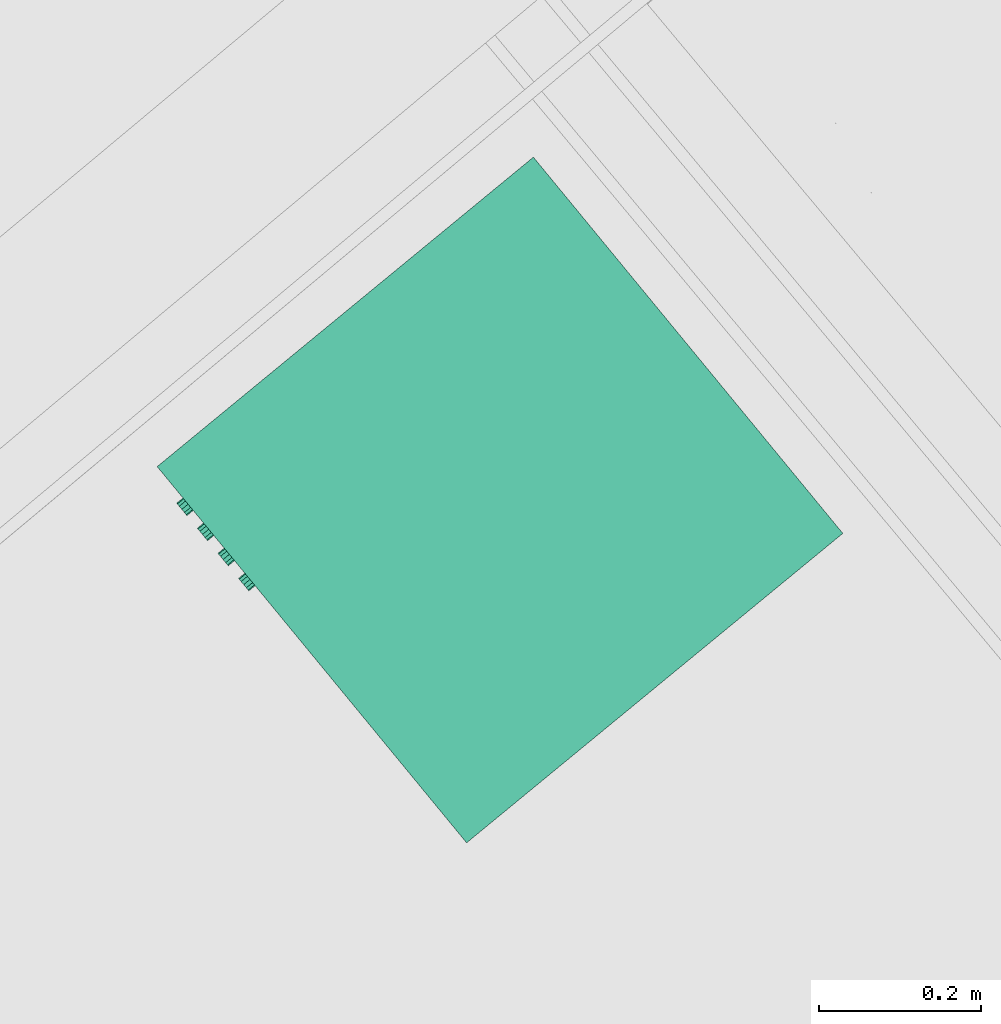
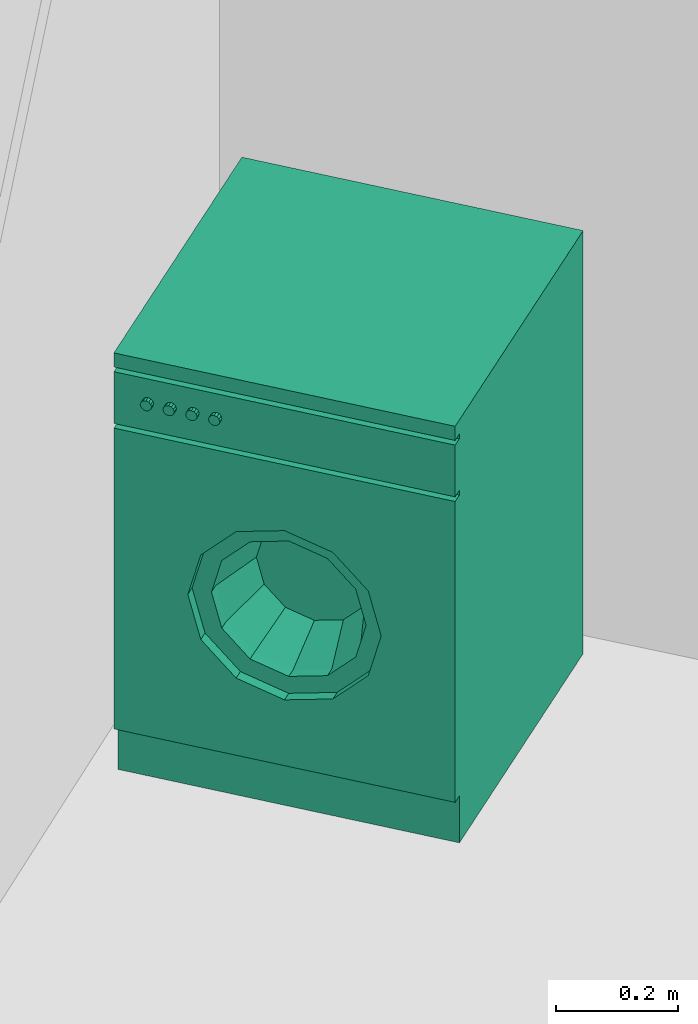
# One storey, part 50 of 58: 1 sanitary terminal.
"""IFC4 building model written with IfcOpenShell, lengths in metres."""

from ifc_helpers import new_model, entity, si_unit, converted_unit, derived_unit, direction, frame, origin_with_axes, place, context, subcontext, project, spatial, polygons, source, transform, mapped, type_object, element, save


model = new_model("IFC4")

# Units and contexts
model_context = context("Model", 3, precision=1e-05, world=origin_with_axes(), true_north=direction((0.0, 1.0)))
body_context = subcontext(model_context, "Body", "Model", "MODEL_VIEW")
ifc_project = project(units=[si_unit("LENGTHUNIT", "METRE"), si_unit("AREAUNIT", "SQUARE_METRE"), si_unit("VOLUMEUNIT", "CUBIC_METRE"), converted_unit("PLANEANGLEUNIT", "DEGREE", entity("IfcPlaneAngleMeasure", 0.0174532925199), si_unit("PLANEANGLEUNIT", "RADIAN"), dimensions=[0, 0, 0, 0, 0, 0, 0]), converted_unit("TIMEUNIT", "Year", entity("IfcTimeMeasure", 31556926.0), si_unit("TIMEUNIT", "SECOND"), dimensions=[0, 0, 1, 0, 0, 0, 0]), si_unit("MASSUNIT", "GRAM", prefix="KILO"), si_unit("THERMODYNAMICTEMPERATUREUNIT", "DEGREE_CELSIUS"), si_unit("LUMINOUSINTENSITYUNIT", "LUMEN"), si_unit("ENERGYUNIT", "JOULE", prefix="MEGA"), derived_unit("THERMALCONDUCTANCEUNIT", [(si_unit("POWERUNIT", "WATT"), 1), (si_unit("LENGTHUNIT", "METRE"), -1), (si_unit("THERMODYNAMICTEMPERATUREUNIT", "KELVIN"), -1)]), derived_unit("SPECIFICHEATCAPACITYUNIT", [(si_unit("ENERGYUNIT", "JOULE"), 1), (si_unit("MASSUNIT", "GRAM", prefix="KILO"), -1), (si_unit("THERMODYNAMICTEMPERATUREUNIT", "KELVIN"), -1)]), derived_unit("MASSDENSITYUNIT", [(si_unit("MASSUNIT", "GRAM", prefix="KILO"), 1), (si_unit("VOLUMEUNIT", "CUBIC_METRE"), -1)])], contexts=[model_context])

# Site, building, storey
site_placement = place(None, frame((-0.00153261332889, -0.00661245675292, 0.0), z_axis=(0.0, 0.0, 1.0), x_axis=(1.0, 0.0, 0.0)))
site = spatial("IfcSite", under=ifc_project, at=site_placement, Name="Site", CompositionType="ELEMENT")
building_placement = place(site_placement, origin_with_axes())
building = spatial("IfcBuilding", under=site, at=building_placement, Name="Building", CompositionType="ELEMENT")
storey_placement = place(building_placement, frame((0.0, 0.0, 5.7), z_axis=(0.0, 0.0, 1.0), x_axis=(1.0, 0.0, 0.0)))
storey = spatial("IfcBuildingStorey", under=building, at=storey_placement, Name="DG1", CompositionType="ELEMENT", Elevation=5.7)

# Sanitary terminal
sanitary_terminal_type = type_object("IfcSanitaryTerminalType", Name="Waschmaschine 01 26", PredefinedType="NOTDEFINED")
shared_shape = source(origin_with_axes(), body_context, "Body", "Tessellation", [
    polygons([(-0.3, -0.58, 0.0944444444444), (0.3, -0.58, 0.0944444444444), (0.3, -0.6, 0.0944444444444), (-0.3, -0.6, 0.0944444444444), (-0.3, -0.58, 0.698888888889), (0.3, -0.58, 0.698888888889), (0.17, -0.58, 0.396666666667), (0.147224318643, -0.58, 0.481666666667), (0.085, -0.58, 0.54389098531), (0.0, -0.58, 0.566666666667), (-0.085, -0.58, 0.54389098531), (-0.147224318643, -0.58, 0.481666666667), (-0.17, -0.58, 0.396666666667), (-0.147224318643, -0.58, 0.311666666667), (-0.085, -0.58, 0.249442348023), (0.0, -0.58, 0.226666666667), (0.085, -0.58, 0.249442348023), (0.147224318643, -0.58, 0.311666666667), (0.3, -0.6, 0.698888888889), (-0.3, -0.6, 0.698888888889), (0.17, -0.6, 0.396666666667), (0.147224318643, -0.6, 0.311666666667), (0.085, -0.6, 0.249442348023), (0.0, -0.6, 0.226666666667), (-0.085, -0.6, 0.249442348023), (-0.147224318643, -0.6, 0.311666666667), (-0.17, -0.6, 0.396666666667), (-0.147224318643, -0.6, 0.481666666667), (-0.085, -0.6, 0.54389098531), (0.0, -0.6, 0.566666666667), (0.085, -0.6, 0.54389098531), (0.147224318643, -0.6, 0.481666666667)], [[[1, 2, 3, 4]], [[1, 5, 6, 2], [7, 8, 9, 10, 11, 12, 13, 14, 15, 16, 17, 18]], [[2, 6, 19, 3]], [[4, 3, 19, 20], [21, 22, 23, 24, 25, 26, 27, 28, 29, 30, 31, 32]], [[5, 1, 4, 20]], [[6, 5, 20, 19]], [[8, 7, 21, 32]], [[9, 8, 32, 31]], [[10, 9, 31, 30]], [[11, 10, 30, 29]], [[12, 11, 29, 28]], [[13, 12, 28, 27]], [[14, 13, 27, 26]], [[15, 14, 26, 25]], [[16, 15, 25, 24]], [[17, 16, 24, 23]], [[18, 17, 23, 22]], [[7, 18, 22, 21]]], closed=True),
    polygons([(0.17, -0.56, 0.396666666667), (0.147224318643, -0.56, 0.481666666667), (0.147224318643, -0.58, 0.481666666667), (0.17, -0.58, 0.396666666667), (0.147224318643, -0.56, 0.311666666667), (0.085, -0.56, 0.249442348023), (0.0, -0.56, 0.226666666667), (-0.085, -0.56, 0.249442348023), (-0.147224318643, -0.56, 0.311666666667), (-0.17, -0.56, 0.396666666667), (-0.147224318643, -0.56, 0.481666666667), (-0.085, -0.56, 0.54389098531), (0.0, -0.56, 0.566666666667), (0.085, -0.56, 0.54389098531), (0.136, -0.56, 0.396666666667), (0.117779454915, -0.56, 0.464666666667), (0.068, -0.56, 0.514446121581), (0.0, -0.56, 0.532666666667), (-0.068, -0.56, 0.514446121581), (-0.117779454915, -0.56, 0.464666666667), (-0.136, -0.56, 0.396666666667), (-0.117779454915, -0.56, 0.328666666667), (-0.068, -0.56, 0.278887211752), (0.0, -0.56, 0.260666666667), (0.068, -0.56, 0.278887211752), (0.117779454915, -0.56, 0.328666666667), (0.085, -0.58, 0.54389098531), (0.0, -0.58, 0.566666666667), (-0.085, -0.58, 0.54389098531), (-0.147224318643, -0.58, 0.481666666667), (-0.17, -0.58, 0.396666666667), (-0.147224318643, -0.58, 0.311666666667), (-0.085, -0.58, 0.249442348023), (0.0, -0.58, 0.226666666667), (0.085, -0.58, 0.249442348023), (0.147224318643, -0.58, 0.311666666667), (0.136, -0.58, 0.396666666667), (0.117779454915, -0.58, 0.328666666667), (0.068, -0.58, 0.278887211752), (0.0, -0.58, 0.260666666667), (-0.068, -0.58, 0.278887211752), (-0.117779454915, -0.58, 0.328666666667), (-0.136, -0.58, 0.396666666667), (-0.117779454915, -0.58, 0.464666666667), (-0.068, -0.58, 0.514446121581), (0.0, -0.58, 0.532666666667), (0.068, -0.58, 0.514446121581), (0.117779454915, -0.58, 0.464666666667)], [[[1, 2, 3, 4]], [[1, 5, 6, 7, 8, 9, 10, 11, 12, 13, 14, 2], [15, 16, 17, 18, 19, 20, 21, 22, 23, 24, 25, 26]], [[2, 14, 27, 3]], [[4, 3, 27, 28, 29, 30, 31, 32, 33, 34, 35, 36], [37, 38, 39, 40, 41, 42, 43, 44, 45, 46, 47, 48]], [[5, 1, 4, 36]], [[6, 5, 36, 35]], [[7, 6, 35, 34]], [[8, 7, 34, 33]], [[9, 8, 33, 32]], [[10, 9, 32, 31]], [[11, 10, 31, 30]], [[12, 11, 30, 29]], [[13, 12, 29, 28]], [[14, 13, 28, 27]], [[16, 15, 37, 48]], [[17, 16, 48, 47]], [[18, 17, 47, 46]], [[19, 18, 46, 45]], [[20, 19, 45, 44]], [[21, 20, 44, 43]], [[22, 21, 43, 42]], [[23, 22, 42, 41]], [[24, 23, 41, 40]], [[25, 24, 40, 39]], [[26, 25, 39, 38]], [[15, 26, 38, 37]]], closed=True),
    polygons([(-0.068, -0.56, 0.514446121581), (0.0, -0.56, 0.532666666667), (0.0, -0.46, 0.498666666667), (-0.051, -0.46, 0.485001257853), (0.068, -0.56, 0.514446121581), (0.051, -0.46, 0.485001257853), (0.088334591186, -0.46, 0.447666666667), (0.102, -0.46, 0.396666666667), (0.088334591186, -0.46, 0.345666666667), (0.051, -0.46, 0.308332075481), (0.0, -0.46, 0.294666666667), (-0.051, -0.46, 0.308332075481), (-0.088334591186, -0.46, 0.345666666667), (-0.102, -0.46, 0.396666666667), (-0.088334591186, -0.46, 0.447666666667), (-0.117779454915, -0.56, 0.464666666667), (0.117779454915, -0.56, 0.464666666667), (0.136, -0.56, 0.396666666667), (0.117779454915, -0.56, 0.328666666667), (0.068, -0.56, 0.278887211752), (0.0, -0.56, 0.260666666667), (-0.068, -0.56, 0.278887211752), (-0.117779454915, -0.56, 0.328666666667), (-0.136, -0.56, 0.396666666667)], [[[1, 2, 3, 4]], [[2, 5, 6, 3]], [[3, 6, 7, 8, 9, 10, 11, 12, 13, 14, 15, 4]], [[16, 1, 4, 15]], [[5, 17, 7, 6]], [[17, 18, 8, 7]], [[18, 19, 9, 8]], [[19, 20, 10, 9]], [[20, 21, 11, 10]], [[21, 22, 12, 11]], [[22, 23, 13, 12]], [[23, 24, 14, 13]], [[24, 16, 15, 14]]], closed=False),
    polygons([(-0.3, -0.58, 0.0944444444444), (-0.3, -0.58, 0.821666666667), (-0.3, 0.0, 0.821666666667), (-0.3, 0.0, 0.0944444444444)], [[[1, 2, 3, 4]]], closed=False),
    polygons([(0.3, -0.58, 0.0944444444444), (0.3, -0.58, 0.821666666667), (0.3, 0.0, 0.821666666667), (0.3, 0.0, 0.0944444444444)], [[[1, 2, 3, 4]]], closed=False),
    polygons([(-0.3, 0.0, 0.0944444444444), (-0.3, 0.0, 0.821666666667), (0.3, 0.0, 0.821666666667), (0.3, 0.0, 0.0944444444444)], [[[1, 2, 3, 4]]], closed=False),
    polygons([(-0.3, -0.58, 0.0), (0.3, -0.58, 0.0), (0.3, -0.58, 0.0944444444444), (-0.3, -0.58, 0.0944444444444), (-0.3, 0.0, 0.0), (0.3, 0.0, 0.0), (0.3, 0.0, 0.0944444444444), (-0.3, 0.0, 0.0944444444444)], [[[1, 2, 3, 4]], [[1, 5, 6, 2]], [[2, 6, 7, 3]], [[4, 3, 7, 8]], [[5, 1, 4, 8]], [[6, 5, 8, 7]]], closed=True),
    polygons([(-0.3, -0.58, 0.708333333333), (0.3, -0.58, 0.708333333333), (0.3, -0.6, 0.708333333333), (-0.3, -0.6, 0.708333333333), (-0.3, -0.58, 0.812222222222), (0.3, -0.58, 0.812222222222), (0.3, -0.6, 0.812222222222), (-0.3, -0.6, 0.812222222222)], [[[1, 2, 3, 4]], [[1, 5, 6, 2]], [[2, 6, 7, 3]], [[4, 3, 7, 8]], [[5, 1, 4, 8]], [[6, 5, 8, 7]]], closed=True),
    polygons([(-0.3, -0.58, 0.698888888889), (-0.3, -0.58, 0.821666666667), (0.3, -0.58, 0.821666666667), (0.3, -0.58, 0.698888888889)], [[[1, 2, 3, 4]]], closed=False),
    polygons([(-0.3, -0.6, 0.821666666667), (0.3, -0.6, 0.821666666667), (0.3, -0.6, 0.85), (-0.3, -0.6, 0.85), (-0.3, 0.0, 0.821666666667), (0.3, 0.0, 0.821666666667), (0.3, 0.0, 0.85), (-0.3, 0.0, 0.85)], [[[1, 2, 3, 4]], [[1, 5, 6, 2]], [[2, 6, 7, 3]], [[4, 3, 7, 8]], [[5, 1, 4, 8]], [[6, 5, 8, 7]]], closed=True),
    polygons([(-0.231339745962, -0.6, 0.76), (-0.235, -0.6, 0.756339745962), (-0.24, -0.6, 0.755), (-0.245, -0.6, 0.756339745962), (-0.248660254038, -0.6, 0.76), (-0.25, -0.6, 0.765), (-0.248660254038, -0.6, 0.77), (-0.245, -0.6, 0.773660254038), (-0.24, -0.6, 0.775), (-0.235, -0.6, 0.773660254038), (-0.231339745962, -0.6, 0.77), (-0.23, -0.6, 0.765), (-0.231339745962, -0.61, 0.76), (-0.235, -0.61, 0.756339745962), (-0.24, -0.61, 0.755), (-0.245, -0.61, 0.756339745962), (-0.248660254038, -0.61, 0.76), (-0.25, -0.61, 0.765), (-0.248660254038, -0.61, 0.77), (-0.245, -0.61, 0.773660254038), (-0.24, -0.61, 0.775), (-0.235, -0.61, 0.773660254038), (-0.231339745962, -0.61, 0.77), (-0.23, -0.61, 0.765)], [[[1, 2, 3, 4, 5, 6, 7, 8, 9, 10, 11, 12]], [[2, 1, 13, 14]], [[3, 2, 14, 15]], [[4, 3, 15, 16]], [[5, 4, 16, 17]], [[6, 5, 17, 18]], [[7, 6, 18, 19]], [[8, 7, 19, 20]], [[9, 8, 20, 21]], [[10, 9, 21, 22]], [[11, 10, 22, 23]], [[12, 11, 23, 24]], [[1, 12, 24, 13]], [[13, 24, 23, 22, 21, 20, 19, 18, 17, 16, 15, 14]]], closed=True),
    polygons([(-0.191339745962, -0.6, 0.76), (-0.195, -0.6, 0.756339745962), (-0.2, -0.6, 0.755), (-0.205, -0.6, 0.756339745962), (-0.208660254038, -0.6, 0.76), (-0.21, -0.6, 0.765), (-0.208660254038, -0.6, 0.77), (-0.205, -0.6, 0.773660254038), (-0.2, -0.6, 0.775), (-0.195, -0.6, 0.773660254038), (-0.191339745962, -0.6, 0.77), (-0.19, -0.6, 0.765), (-0.191339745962, -0.61, 0.76), (-0.195, -0.61, 0.756339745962), (-0.2, -0.61, 0.755), (-0.205, -0.61, 0.756339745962), (-0.208660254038, -0.61, 0.76), (-0.21, -0.61, 0.765), (-0.208660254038, -0.61, 0.77), (-0.205, -0.61, 0.773660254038), (-0.2, -0.61, 0.775), (-0.195, -0.61, 0.773660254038), (-0.191339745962, -0.61, 0.77), (-0.19, -0.61, 0.765)], [[[1, 2, 3, 4, 5, 6, 7, 8, 9, 10, 11, 12]], [[2, 1, 13, 14]], [[3, 2, 14, 15]], [[4, 3, 15, 16]], [[5, 4, 16, 17]], [[6, 5, 17, 18]], [[7, 6, 18, 19]], [[8, 7, 19, 20]], [[9, 8, 20, 21]], [[10, 9, 21, 22]], [[11, 10, 22, 23]], [[12, 11, 23, 24]], [[1, 12, 24, 13]], [[13, 24, 23, 22, 21, 20, 19, 18, 17, 16, 15, 14]]], closed=True),
    polygons([(-0.151339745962, -0.6, 0.76), (-0.155, -0.6, 0.756339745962), (-0.16, -0.6, 0.755), (-0.165, -0.6, 0.756339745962), (-0.168660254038, -0.6, 0.76), (-0.17, -0.6, 0.765), (-0.168660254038, -0.6, 0.77), (-0.165, -0.6, 0.773660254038), (-0.16, -0.6, 0.775), (-0.155, -0.6, 0.773660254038), (-0.151339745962, -0.6, 0.77), (-0.15, -0.6, 0.765), (-0.151339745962, -0.61, 0.76), (-0.155, -0.61, 0.756339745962), (-0.16, -0.61, 0.755), (-0.165, -0.61, 0.756339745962), (-0.168660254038, -0.61, 0.76), (-0.17, -0.61, 0.765), (-0.168660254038, -0.61, 0.77), (-0.165, -0.61, 0.773660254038), (-0.16, -0.61, 0.775), (-0.155, -0.61, 0.773660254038), (-0.151339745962, -0.61, 0.77), (-0.15, -0.61, 0.765)], [[[1, 2, 3, 4, 5, 6, 7, 8, 9, 10, 11, 12]], [[2, 1, 13, 14]], [[3, 2, 14, 15]], [[4, 3, 15, 16]], [[5, 4, 16, 17]], [[6, 5, 17, 18]], [[7, 6, 18, 19]], [[8, 7, 19, 20]], [[9, 8, 20, 21]], [[10, 9, 21, 22]], [[11, 10, 22, 23]], [[12, 11, 23, 24]], [[1, 12, 24, 13]], [[13, 24, 23, 22, 21, 20, 19, 18, 17, 16, 15, 14]]], closed=True),
    polygons([(-0.111339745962, -0.6, 0.76), (-0.115, -0.6, 0.756339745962), (-0.12, -0.6, 0.755), (-0.125, -0.6, 0.756339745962), (-0.128660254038, -0.6, 0.76), (-0.13, -0.6, 0.765), (-0.128660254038, -0.6, 0.77), (-0.125, -0.6, 0.773660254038), (-0.12, -0.6, 0.775), (-0.115, -0.6, 0.773660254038), (-0.111339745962, -0.6, 0.77), (-0.11, -0.6, 0.765), (-0.111339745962, -0.61, 0.76), (-0.115, -0.61, 0.756339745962), (-0.12, -0.61, 0.755), (-0.125, -0.61, 0.756339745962), (-0.128660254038, -0.61, 0.76), (-0.13, -0.61, 0.765), (-0.128660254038, -0.61, 0.77), (-0.125, -0.61, 0.773660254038), (-0.12, -0.61, 0.775), (-0.115, -0.61, 0.773660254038), (-0.111339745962, -0.61, 0.77), (-0.11, -0.61, 0.765)], [[[1, 2, 3, 4, 5, 6, 7, 8, 9, 10, 11, 12]], [[2, 1, 13, 14]], [[3, 2, 14, 15]], [[4, 3, 15, 16]], [[5, 4, 16, 17]], [[6, 5, 17, 18]], [[7, 6, 18, 19]], [[8, 7, 19, 20]], [[9, 8, 20, 21]], [[10, 9, 21, 22]], [[11, 10, 22, 23]], [[12, 11, 23, 24]], [[1, 12, 24, 13]], [[13, 24, 23, 22, 21, 20, 19, 18, 17, 16, 15, 14]]], closed=True),
])
sanitary_terminal_placement = place(storey_placement, frame((-0.983582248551, 20.7332559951, 0.22), z_axis=(0.0, 0.0, 1.0), x_axis=(0.635231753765, -0.772321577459, 0.0)))
element("IfcSanitaryTerminal", 1, at=sanitary_terminal_placement, inside=storey, type_object=sanitary_terminal_type, Name="Objekt-0002", PredefinedType="NOTDEFINED", context=body_context, shape_type="MappedRepresentation", body=[
    mapped(shared_shape, transform((0.0, 0.0, 0.0))),
])

save(model, "model.ifc")
